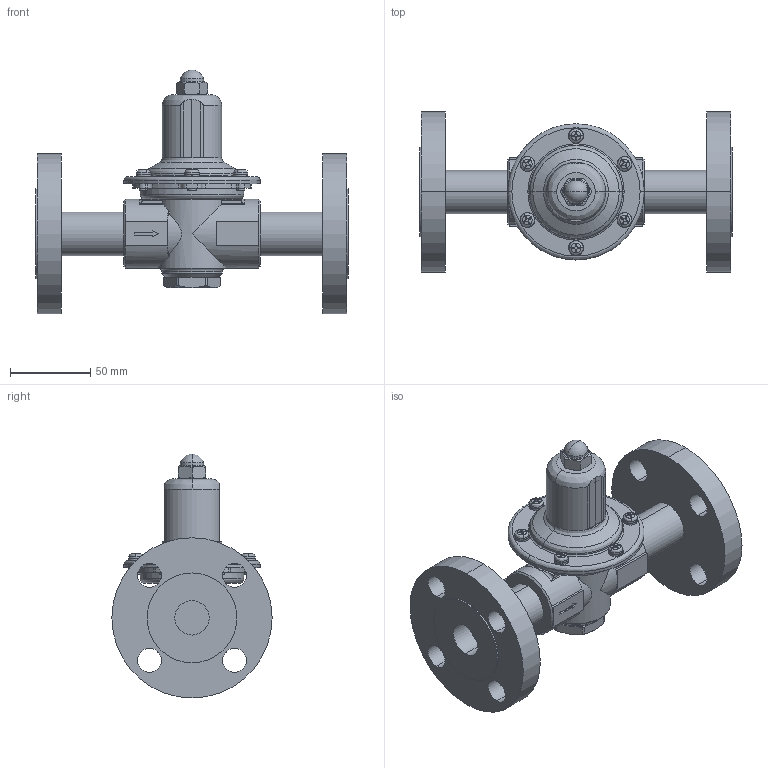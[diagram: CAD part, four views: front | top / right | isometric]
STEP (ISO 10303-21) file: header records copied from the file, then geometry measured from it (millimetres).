
FILE_DESCRIPTION( (''), '2;1');
FILE_NAME ('PC1276.1940.GD-43-20 (20A RF)_32551.stp','2026-01-15T14:41:08',(''),(''),'spGate 20.6.3 (****-****-****-****)','','');
FILE_SCHEMA (('AUTOMOTIVE_DESIGN'));
Length unit declared in the file: millimetre
Products named in the file (8): Assembly; ばねかばー; 袋ナット; 下部キャップ; なべこねじ(Ｍ5-10); スプリング座金; ダイヤフラム; GD-41 20A
Assembly tree (17 placements, depth 2):
  Assembly
    ばねかばー
    袋ナット
    下部キャップ
    なべこねじ(Ｍ5-10)  x6
    スプリング座金  x6
    ダイヤフラム
    GD-41 20A
Bounding box: 195 x 100 x 152.25 mm (x, y, z)
Volume: 451883.8 mm3; surface area: 120025.3 mm2
Topology: 17 solids, 17 shells, 637 faces, 1606 edges, 1025 vertices
Faces by surface type: plane 261, cylinder 240, bspline 120, sphere 16
Entity records: 26307 total; most frequent: CARTESIAN_POINT 5626, ORIENTED_EDGE 2404, DIRECTION 2208, COLOUR_RGB 1681, PRESENTATION_STYLE_ASSIGNMENT 1681, STYLED_ITEM 1681, EDGE_CURVE 1202, DRAUGHTING_PRE_DEFINED_CURVE_FONT 1202
